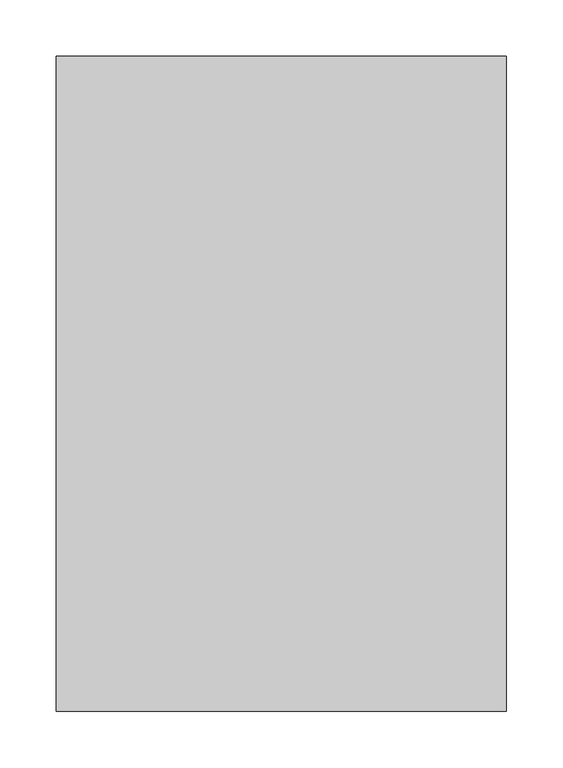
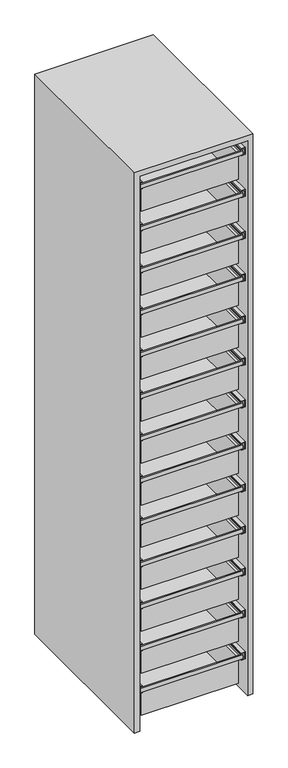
"""IFC4 building model written with IfcOpenShell, lengths in millimetres: proxy geometry, BIMHealth-Tall_Storage_Cupboard_with_Zone-LOD2A-v1 : BIMHealth-Tall_Storage_Cupboard_with_Zone-LOD2A-v1."""

import ifcopenshell
import ifcopenshell.guid

model = None  # the IFC model being written
_history = None  # IfcOwnerHistory: only IFC2X3 demands one
_inside = {}  # id of a spatial element -> (the spatial element, [elements in it])
_under = {}  # id of a project, library or spatial element -> (it, [spatial elements below it])
_declared = {}  # id of a project -> (the project, [libraries it declares])
_typed = {}  # id of a type object -> (the type object, [elements of that type])
_made_of = {}  # id of a material, layer set ... -> (it, [elements and type objects made of it])


def new_model(schema):
    """Start an empty IFC model of exactly this schema.

    Asked for "IFC4X3", IfcOpenShell would pick the latest addendum, in which some entities
    have other attributes; the version numbers below select the first issue.
    IFC2X3 requires an IfcOwnerHistory on every rooted entity: one is made here for all.
    """
    global model, _history
    if schema == "IFC4X3":
        model = ifcopenshell.file(schema_version=(4, 3, 0, 0))
    else:
        model = ifcopenshell.file(schema=schema)
    _inside.clear()
    _under.clear()
    _declared.clear()
    _typed.clear()
    _made_of.clear()
    _history = None
    if model.schema == "IFC2X3":
        org = make("IfcOrganization", Name="unknown")
        user = make(
            "IfcPersonAndOrganization",
            ThePerson=make("IfcPerson", FamilyName="unknown"),
            TheOrganization=org,
        )
        app = make(
            "IfcApplication",
            ApplicationDeveloper=org,
            Version="unknown",
            ApplicationFullName="unknown",
            ApplicationIdentifier="unknown",
        )
        _history = make(
            "IfcOwnerHistory",
            OwningUser=user,
            OwningApplication=app,
            ChangeAction="ADDED",
            CreationDate=0,
        )
    return model


def make(cls, **values):
    """One entity of the class cls with the attributes given. An attribute that is None is left unset."""
    return model.create_entity(
        cls, **{name: value for name, value in values.items() if value is not None}
    )


def rooted(cls, **values):
    """An entity with a GlobalId (a new one), such as an element, a storey or a relation."""
    return make(cls, GlobalId=ifcopenshell.guid.new(), OwnerHistory=_history, **values)


def si_unit(unit_type, name, prefix=None):
    """IfcSIUnit, for example si_unit("LENGTHUNIT", "METRE", prefix="MILLI")."""
    return make("IfcSIUnit", UnitType=unit_type, Prefix=prefix, Name=name)


def assignment(units):
    """IfcUnitAssignment: the units of a project."""
    return None if units is None else make("IfcUnitAssignment", Units=units)


def point(xyz):
    """IfcCartesianPoint."""
    return None if xyz is None else make("IfcCartesianPoint", Coordinates=xyz)


def direction(xyz):
    """IfcDirection."""
    return None if xyz is None else make("IfcDirection", DirectionRatios=xyz)


def frame(location, z_axis=None, x_axis=None):
    """IfcAxis2Placement3D, a coordinate frame: its origin and axes. An axis left out is left unset."""
    return make(
        "IfcAxis2Placement3D",
        Location=point(location),
        Axis=direction(z_axis),
        RefDirection=direction(x_axis),
    )


def origin():
    """The frame at (0, 0, 0) with its axes left unset."""
    return frame((0.0, 0.0, 0.0))


def place(relative_to, where):
    """IfcLocalPlacement: puts the frame where relative to a parent placement (None: the world)."""
    return make(
        "IfcLocalPlacement", PlacementRelTo=relative_to, RelativePlacement=where
    )


def context(
    kind, dimensions, precision=None, world=None, true_north=None, identifier=None
):
    """IfcGeometricRepresentationContext, for example the 3D "Model" context."""
    return make(
        "IfcGeometricRepresentationContext",
        ContextIdentifier=identifier,
        ContextType=kind,
        CoordinateSpaceDimension=dimensions,
        Precision=precision,
        WorldCoordinateSystem=world,
        TrueNorth=true_north,
    )


def project(units=None, contexts=None):
    """IfcProject with its units and contexts."""
    return rooted(
        "IfcProject",
        Name="project",
        RepresentationContexts=contexts,
        UnitsInContext=assignment(units),
    )


def spatial(cls, under=None, at=None, **own):
    """A site, building, storey or space (cls), placed at a placement, below another one or the project."""
    s = rooted(cls, ObjectPlacement=at, **own)
    if under is not None:
        _under.setdefault(under.id(), (under, []))[1].append(s)
    return s


def faces_of(points, faces, orient=None, outer=None):
    """IfcFace entities. A face is a list of loops; a loop is a list of indices into points, from 0.

    orient and outer hold one flag for each loop. By default every Orientation is true, the
    first loop of a face is its IfcFaceOuterBound and the others are IfcFaceBound.
    """
    made = []
    for i, loops in enumerate(faces):
        bounds = []
        for j, loop in enumerate(loops):
            is_outer = j == 0 if outer is None else outer[i][j]
            bounds.append(
                make(
                    "IfcFaceOuterBound" if is_outer else "IfcFaceBound",
                    Bound=make("IfcPolyLoop", Polygon=[points[k] for k in loop]),
                    Orientation=True if orient is None else orient[i][j],
                )
            )
        made.append(make("IfcFace", Bounds=bounds))
    return made


def faceted_brep(points, faces, orient=None, outer=None, voids=None):
    """IfcFacetedBrep: a solid bounded by flat faces; with voids (closed shells), ...WithVoids."""
    shared = [point(p) for p in points]
    hull = make("IfcClosedShell", CfsFaces=faces_of(shared, faces, orient, outer))
    if voids is None:
        return make("IfcFacetedBrep", Outer=hull)
    return make(
        "IfcFacetedBrepWithVoids",
        Outer=hull,
        Voids=[
            make(cls, CfsFaces=faces_of(shared, fs, o, b)) for cls, fs, o, b in voids
        ],
    )


def shape(context_of_items, identifier, shape_type, items):
    """IfcShapeRepresentation: the items that make up one representation, for example the "Body"."""
    return make(
        "IfcShapeRepresentation",
        ContextOfItems=context_of_items,
        RepresentationIdentifier=identifier,
        RepresentationType=shape_type,
        Items=items,
    )


def source(mapping_origin, context_of_items, identifier, shape_type, items):
    """IfcRepresentationMap: a shape defined once, which mapped items show again and again."""
    return make(
        "IfcRepresentationMap",
        MappingOrigin=mapping_origin,
        MappedRepresentation=shape(context_of_items, identifier, shape_type, items),
    )


def transform(
    local_origin,
    x_axis=None,
    y_axis=None,
    z_axis=None,
    scale=None,
    scale2=None,
    scale3=None,
    uniform=True,
):
    """IfcCartesianTransformationOperator3D, or its non-uniform kind. x_axis, y_axis, z_axis: its Axis1, 2, 3."""
    if uniform:
        return make(
            "IfcCartesianTransformationOperator3D",
            Axis1=direction(x_axis),
            Axis2=direction(y_axis),
            LocalOrigin=point(local_origin),
            Scale=scale,
            Axis3=direction(z_axis),
        )
    return make(
        "IfcCartesianTransformationOperator3DnonUniform",
        Axis1=direction(x_axis),
        Axis2=direction(y_axis),
        LocalOrigin=point(local_origin),
        Scale=scale,
        Axis3=direction(z_axis),
        Scale2=scale2,
        Scale3=scale3,
    )


def mapped(mapping_source, mapping_target):
    """IfcMappedItem: shows the shape of a source again, moved by a transform."""
    return make(
        "IfcMappedItem", MappingSource=mapping_source, MappingTarget=mapping_target
    )


def made_of(thing, what):
    """Note that an element or type object is made of a material, layer set ...; save() writes the relation."""
    if what is not None:
        _made_of.setdefault(what.id(), (what, []))[1].append(thing)
    return thing


def element(
    cls,
    number,
    at=None,
    inside=None,
    cuts=None,
    type_object=None,
    material=None,
    context=None,
    identifier="Body",
    shape_type=None,
    held_by="IfcProductDefinitionShape",
    body=None,
    shapes=None,
    **own,
):
    """One element of the class cls, such as IfcWall. Its Tag is "e" and its number.

    at: its placement. inside: the storey or other place that contains it. cuts: it is an
    opening in that element (IfcRelVoidsElement). A single representation is given by context,
    identifier, shape_type and body (its items); several are given by shapes. held_by: the class
    of the entity that holds the representations. save() writes the other relations.
    """
    e = rooted(cls, Tag="e%d" % number, ObjectPlacement=at, **own)
    if body is not None:
        shapes = [shape(context, identifier, shape_type, body)]
    if shapes is not None:
        e.Representation = make(held_by, Representations=shapes)
    if inside is not None:
        _inside.setdefault(inside.id(), (inside, []))[1].append(e)
    if cuts is not None:
        rooted(
            "IfcRelVoidsElement", RelatingBuildingElement=cuts, RelatedOpeningElement=e
        )
    if type_object is not None:
        _typed.setdefault(type_object.id(), (type_object, []))[1].append(e)
    return made_of(e, material)


def aggregate(whole, parts):
    """IfcRelAggregates: a whole, such as a stair, and the parts it consists of."""
    return rooted("IfcRelAggregates", RelatingObject=whole, RelatedObjects=parts)


def save(model, path):
    """Write the relations noted so far, then the file.

    IfcRelAggregates (storeys below a building ...), IfcRelContainedInSpatialStructure (elements
    in a storey), IfcRelDefinesByType, IfcRelAssociatesMaterial and IfcRelDeclares: one each for
    every whole, place, type object, material and project.
    """
    for whole, parts in _under.values():
        aggregate(whole, parts)
    for where, things in _inside.values():
        rooted(
            "IfcRelContainedInSpatialStructure",
            RelatedElements=things,
            RelatingStructure=where,
        )
    for kind, things in _typed.values():
        rooted("IfcRelDefinesByType", RelatedObjects=things, RelatingType=kind)
    for what, things in _made_of.values():
        rooted("IfcRelAssociatesMaterial", RelatedObjects=things, RelatingMaterial=what)
    for by, libraries in _declared.values():
        rooted("IfcRelDeclares", RelatingContext=by, RelatedDefinitions=libraries)
    model.write(path)


def generic_models_78f9e339(model_context):
    return source(origin(), model_context, "Body", "Brep", [
        faceted_brep([(26.5, -570.0, 1927.0), (26.5, -570.0, 1942.0), (26.5, -27.2910891, 1942.0), (26.5, -27.2910891, 1927.0), (36.5, -560.0, 1837.0), (36.5, -560.0, 1927.0), (36.5, -37.2910891, 1927.0), (36.5, -37.2910891, 1837.0), (38.5, -558.0, 1929.0), (38.5, -558.0, 1839.0), (38.5, -39.2910891, 1839.0), (38.5, -39.2910891, 1929.0), (28.5, -568.0, 1940.0), (28.5, -568.0, 1929.0), (28.5, -29.2910891, 1929.0), (28.5, -29.2910891, 1940.0), (31.5, -565.0, 1942.0), (31.5, -565.0, 1940.0), (31.5, -32.2910891, 1940.0), (31.5, -32.2910891, 1942.0), (373.5, -27.2910891, 1942.0), (373.5, -27.2910891, 1927.0), (363.5, -37.2910891, 1927.0), (363.5, -37.2910891, 1837.0), (361.5, -39.2910891, 1839.0), (361.5, -39.2910891, 1929.0), (371.5, -29.2910891, 1929.0), (371.5, -29.2910891, 1940.0), (368.5, -32.2910891, 1940.0), (368.5, -32.2910891, 1942.0), (373.5, -570.0, 1942.0), (373.5, -570.0, 1927.0), (363.5, -560.0, 1927.0), (363.5, -560.0, 1837.0), (361.5, -558.0, 1839.0), (361.5, -558.0, 1929.0), (371.5, -568.0, 1929.0), (371.5, -568.0, 1940.0), (368.5, -565.0, 1940.0), (368.5, -565.0, 1942.0)], [[[0, 1, 2, 3]], [[4, 5, 6, 7]], [[8, 9, 10, 11]], [[12, 13, 14, 15]], [[16, 17, 18, 19]], [[3, 2, 20, 21]], [[7, 6, 22, 23]], [[11, 10, 24, 25]], [[15, 14, 26, 27]], [[19, 18, 28, 29]], [[21, 20, 30, 31]], [[23, 22, 32, 33]], [[25, 24, 34, 35]], [[27, 26, 36, 37]], [[29, 28, 38, 39]], [[1, 0, 31, 30]], [[0, 3, 21, 31], [6, 5, 32, 22]], [[5, 4, 33, 32]], [[4, 7, 23, 33]], [[10, 9, 34, 24]], [[9, 8, 35, 34]], [[14, 13, 36, 26], [8, 11, 25, 35]], [[13, 12, 37, 36]], [[12, 15, 27, 37], [18, 17, 38, 28]], [[17, 16, 39, 38]], [[2, 1, 30, 20], [16, 19, 29, 39]]]),
        faceted_brep([(26.5, -570.0, 1777.0), (26.5, -570.0, 1792.0), (26.5, -27.2910891, 1792.0), (26.5, -27.2910891, 1777.0), (36.5, -560.0, 1687.0), (36.5, -560.0, 1777.0), (36.5, -37.2910891, 1777.0), (36.5, -37.2910891, 1687.0), (38.5, -558.0, 1779.0), (38.5, -558.0, 1689.0), (38.5, -39.2910891, 1689.0), (38.5, -39.2910891, 1779.0), (28.5, -568.0, 1790.0), (28.5, -568.0, 1779.0), (28.5, -29.2910891, 1779.0), (28.5, -29.2910891, 1790.0), (31.5, -565.0, 1792.0), (31.5, -565.0, 1790.0), (31.5, -32.2910891, 1790.0), (31.5, -32.2910891, 1792.0), (373.5, -27.2910891, 1792.0), (373.5, -27.2910891, 1777.0), (363.5, -37.2910891, 1777.0), (363.5, -37.2910891, 1687.0), (361.5, -39.2910891, 1689.0), (361.5, -39.2910891, 1779.0), (371.5, -29.2910891, 1779.0), (371.5, -29.2910891, 1790.0), (368.5, -32.2910891, 1790.0), (368.5, -32.2910891, 1792.0), (373.5, -570.0, 1792.0), (373.5, -570.0, 1777.0), (363.5, -560.0, 1777.0), (363.5, -560.0, 1687.0), (361.5, -558.0, 1689.0), (361.5, -558.0, 1779.0), (371.5, -568.0, 1779.0), (371.5, -568.0, 1790.0), (368.5, -565.0, 1790.0), (368.5, -565.0, 1792.0)], [[[0, 1, 2, 3]], [[4, 5, 6, 7]], [[8, 9, 10, 11]], [[12, 13, 14, 15]], [[16, 17, 18, 19]], [[3, 2, 20, 21]], [[7, 6, 22, 23]], [[11, 10, 24, 25]], [[15, 14, 26, 27]], [[19, 18, 28, 29]], [[21, 20, 30, 31]], [[23, 22, 32, 33]], [[25, 24, 34, 35]], [[27, 26, 36, 37]], [[29, 28, 38, 39]], [[1, 0, 31, 30]], [[0, 3, 21, 31], [6, 5, 32, 22]], [[5, 4, 33, 32]], [[4, 7, 23, 33]], [[10, 9, 34, 24]], [[9, 8, 35, 34]], [[14, 13, 36, 26], [8, 11, 25, 35]], [[13, 12, 37, 36]], [[12, 15, 27, 37], [18, 17, 38, 28]], [[17, 16, 39, 38]], [[2, 1, 30, 20], [16, 19, 29, 39]]]),
        faceted_brep([(26.5, -570.0, 1627.0), (26.5, -570.0, 1642.0), (26.5, -27.2910891, 1642.0), (26.5, -27.2910891, 1627.0), (36.5, -560.0, 1537.0), (36.5, -560.0, 1627.0), (36.5, -37.2910891, 1627.0), (36.5, -37.2910891, 1537.0), (38.5, -558.0, 1629.0), (38.5, -558.0, 1539.0), (38.5, -39.2910891, 1539.0), (38.5, -39.2910891, 1629.0), (28.5, -568.0, 1640.0), (28.5, -568.0, 1629.0), (28.5, -29.2910891, 1629.0), (28.5, -29.2910891, 1640.0), (31.5, -565.0, 1642.0), (31.5, -565.0, 1640.0), (31.5, -32.2910891, 1640.0), (31.5, -32.2910891, 1642.0), (373.5, -27.2910891, 1642.0), (373.5, -27.2910891, 1627.0), (363.5, -37.2910891, 1627.0), (363.5, -37.2910891, 1537.0), (361.5, -39.2910891, 1539.0), (361.5, -39.2910891, 1629.0), (371.5, -29.2910891, 1629.0), (371.5, -29.2910891, 1640.0), (368.5, -32.2910891, 1640.0), (368.5, -32.2910891, 1642.0), (373.5, -570.0, 1642.0), (373.5, -570.0, 1627.0), (363.5, -560.0, 1627.0), (363.5, -560.0, 1537.0), (361.5, -558.0, 1539.0), (361.5, -558.0, 1629.0), (371.5, -568.0, 1629.0), (371.5, -568.0, 1640.0), (368.5, -565.0, 1640.0), (368.5, -565.0, 1642.0)], [[[0, 1, 2, 3]], [[4, 5, 6, 7]], [[8, 9, 10, 11]], [[12, 13, 14, 15]], [[16, 17, 18, 19]], [[3, 2, 20, 21]], [[7, 6, 22, 23]], [[11, 10, 24, 25]], [[15, 14, 26, 27]], [[19, 18, 28, 29]], [[21, 20, 30, 31]], [[23, 22, 32, 33]], [[25, 24, 34, 35]], [[27, 26, 36, 37]], [[29, 28, 38, 39]], [[1, 0, 31, 30]], [[0, 3, 21, 31], [6, 5, 32, 22]], [[5, 4, 33, 32]], [[4, 7, 23, 33]], [[10, 9, 34, 24]], [[9, 8, 35, 34]], [[14, 13, 36, 26], [8, 11, 25, 35]], [[13, 12, 37, 36]], [[12, 15, 27, 37], [18, 17, 38, 28]], [[17, 16, 39, 38]], [[2, 1, 30, 20], [16, 19, 29, 39]]]),
        faceted_brep([(26.5, -570.0, 1477.0), (26.5, -570.0, 1492.0), (26.5, -27.2910891, 1492.0), (26.5, -27.2910891, 1477.0), (36.5, -560.0, 1387.0), (36.5, -560.0, 1477.0), (36.5, -37.2910891, 1477.0), (36.5, -37.2910891, 1387.0), (38.5, -558.0, 1479.0), (38.5, -558.0, 1389.0), (38.5, -39.2910891, 1389.0), (38.5, -39.2910891, 1479.0), (28.5, -568.0, 1490.0), (28.5, -568.0, 1479.0), (28.5, -29.2910891, 1479.0), (28.5, -29.2910891, 1490.0), (31.5, -565.0, 1492.0), (31.5, -565.0, 1490.0), (31.5, -32.2910891, 1490.0), (31.5, -32.2910891, 1492.0), (373.5, -27.2910891, 1492.0), (373.5, -27.2910891, 1477.0), (363.5, -37.2910891, 1477.0), (363.5, -37.2910891, 1387.0), (361.5, -39.2910891, 1389.0), (361.5, -39.2910891, 1479.0), (371.5, -29.2910891, 1479.0), (371.5, -29.2910891, 1490.0), (368.5, -32.2910891, 1490.0), (368.5, -32.2910891, 1492.0), (373.5, -570.0, 1492.0), (373.5, -570.0, 1477.0), (363.5, -560.0, 1477.0), (363.5, -560.0, 1387.0), (361.5, -558.0, 1389.0), (361.5, -558.0, 1479.0), (371.5, -568.0, 1479.0), (371.5, -568.0, 1490.0), (368.5, -565.0, 1490.0), (368.5, -565.0, 1492.0)], [[[0, 1, 2, 3]], [[4, 5, 6, 7]], [[8, 9, 10, 11]], [[12, 13, 14, 15]], [[16, 17, 18, 19]], [[3, 2, 20, 21]], [[7, 6, 22, 23]], [[11, 10, 24, 25]], [[15, 14, 26, 27]], [[19, 18, 28, 29]], [[21, 20, 30, 31]], [[23, 22, 32, 33]], [[25, 24, 34, 35]], [[27, 26, 36, 37]], [[29, 28, 38, 39]], [[1, 0, 31, 30]], [[0, 3, 21, 31], [6, 5, 32, 22]], [[5, 4, 33, 32]], [[4, 7, 23, 33]], [[10, 9, 34, 24]], [[9, 8, 35, 34]], [[14, 13, 36, 26], [8, 11, 25, 35]], [[13, 12, 37, 36]], [[12, 15, 27, 37], [18, 17, 38, 28]], [[17, 16, 39, 38]], [[2, 1, 30, 20], [16, 19, 29, 39]]]),
        faceted_brep([(26.5, -570.0, 1327.0), (26.5, -570.0, 1342.0), (26.5, -27.2910891, 1342.0), (26.5, -27.2910891, 1327.0), (36.5, -560.0, 1237.0), (36.5, -560.0, 1327.0), (36.5, -37.2910891, 1327.0), (36.5, -37.2910891, 1237.0), (38.5, -558.0, 1329.0), (38.5, -558.0, 1239.0), (38.5, -39.2910891, 1239.0), (38.5, -39.2910891, 1329.0), (28.5, -568.0, 1340.0), (28.5, -568.0, 1329.0), (28.5, -29.2910891, 1329.0), (28.5, -29.2910891, 1340.0), (31.5, -565.0, 1342.0), (31.5, -565.0, 1340.0), (31.5, -32.2910891, 1340.0), (31.5, -32.2910891, 1342.0), (373.5, -27.2910891, 1342.0), (373.5, -27.2910891, 1327.0), (363.5, -37.2910891, 1327.0), (363.5, -37.2910891, 1237.0), (361.5, -39.2910891, 1239.0), (361.5, -39.2910891, 1329.0), (371.5, -29.2910891, 1329.0), (371.5, -29.2910891, 1340.0), (368.5, -32.2910891, 1340.0), (368.5, -32.2910891, 1342.0), (373.5, -570.0, 1342.0), (373.5, -570.0, 1327.0), (363.5, -560.0, 1327.0), (363.5, -560.0, 1237.0), (361.5, -558.0, 1239.0), (361.5, -558.0, 1329.0), (371.5, -568.0, 1329.0), (371.5, -568.0, 1340.0), (368.5, -565.0, 1340.0), (368.5, -565.0, 1342.0)], [[[0, 1, 2, 3]], [[4, 5, 6, 7]], [[8, 9, 10, 11]], [[12, 13, 14, 15]], [[16, 17, 18, 19]], [[3, 2, 20, 21]], [[7, 6, 22, 23]], [[11, 10, 24, 25]], [[15, 14, 26, 27]], [[19, 18, 28, 29]], [[21, 20, 30, 31]], [[23, 22, 32, 33]], [[25, 24, 34, 35]], [[27, 26, 36, 37]], [[29, 28, 38, 39]], [[1, 0, 31, 30]], [[0, 3, 21, 31], [6, 5, 32, 22]], [[5, 4, 33, 32]], [[4, 7, 23, 33]], [[10, 9, 34, 24]], [[9, 8, 35, 34]], [[14, 13, 36, 26], [8, 11, 25, 35]], [[13, 12, 37, 36]], [[12, 15, 27, 37], [18, 17, 38, 28]], [[17, 16, 39, 38]], [[2, 1, 30, 20], [16, 19, 29, 39]]]),
        faceted_brep([(26.5, -570.0, 1177.0), (26.5, -570.0, 1192.0), (26.5, -27.2910891, 1192.0), (26.5, -27.2910891, 1177.0), (36.5, -560.0, 1087.0), (36.5, -560.0, 1177.0), (36.5, -37.2910891, 1177.0), (36.5, -37.2910891, 1087.0), (38.5, -558.0, 1179.0), (38.5, -558.0, 1089.0), (38.5, -39.2910891, 1089.0), (38.5, -39.2910891, 1179.0), (28.5, -568.0, 1190.0), (28.5, -568.0, 1179.0), (28.5, -29.2910891, 1179.0), (28.5, -29.2910891, 1190.0), (31.5, -565.0, 1192.0), (31.5, -565.0, 1190.0), (31.5, -32.2910891, 1190.0), (31.5, -32.2910891, 1192.0), (373.5, -27.2910891, 1192.0), (373.5, -27.2910891, 1177.0), (363.5, -37.2910891, 1177.0), (363.5, -37.2910891, 1087.0), (361.5, -39.2910891, 1089.0), (361.5, -39.2910891, 1179.0), (371.5, -29.2910891, 1179.0), (371.5, -29.2910891, 1190.0), (368.5, -32.2910891, 1190.0), (368.5, -32.2910891, 1192.0), (373.5, -570.0, 1192.0), (373.5, -570.0, 1177.0), (363.5, -560.0, 1177.0), (363.5, -560.0, 1087.0), (361.5, -558.0, 1089.0), (361.5, -558.0, 1179.0), (371.5, -568.0, 1179.0), (371.5, -568.0, 1190.0), (368.5, -565.0, 1190.0), (368.5, -565.0, 1192.0)], [[[0, 1, 2, 3]], [[4, 5, 6, 7]], [[8, 9, 10, 11]], [[12, 13, 14, 15]], [[16, 17, 18, 19]], [[3, 2, 20, 21]], [[7, 6, 22, 23]], [[11, 10, 24, 25]], [[15, 14, 26, 27]], [[19, 18, 28, 29]], [[21, 20, 30, 31]], [[23, 22, 32, 33]], [[25, 24, 34, 35]], [[27, 26, 36, 37]], [[29, 28, 38, 39]], [[1, 0, 31, 30]], [[0, 3, 21, 31], [6, 5, 32, 22]], [[5, 4, 33, 32]], [[4, 7, 23, 33]], [[10, 9, 34, 24]], [[9, 8, 35, 34]], [[14, 13, 36, 26], [8, 11, 25, 35]], [[13, 12, 37, 36]], [[12, 15, 27, 37], [18, 17, 38, 28]], [[17, 16, 39, 38]], [[2, 1, 30, 20], [16, 19, 29, 39]]]),
        faceted_brep([(26.5, -570.0, 1027.0), (26.5, -570.0, 1042.0), (26.5, -27.2910891, 1042.0), (26.5, -27.2910891, 1027.0), (36.5, -560.0, 937.0), (36.5, -560.0, 1027.0), (36.5, -37.2910891, 1027.0), (36.5, -37.2910891, 937.0), (38.5, -558.0, 1029.0), (38.5, -558.0, 939.0), (38.5, -39.2910891, 939.0), (38.5, -39.2910891, 1029.0), (28.5, -568.0, 1040.0), (28.5, -568.0, 1029.0), (28.5, -29.2910891, 1029.0), (28.5, -29.2910891, 1040.0), (31.5, -565.0, 1042.0), (31.5, -565.0, 1040.0), (31.5, -32.2910891, 1040.0), (31.5, -32.2910891, 1042.0), (373.5, -27.2910891, 1042.0), (373.5, -27.2910891, 1027.0), (363.5, -37.2910891, 1027.0), (363.5, -37.2910891, 937.0), (361.5, -39.2910891, 939.0), (361.5, -39.2910891, 1029.0), (371.5, -29.2910891, 1029.0), (371.5, -29.2910891, 1040.0), (368.5, -32.2910891, 1040.0), (368.5, -32.2910891, 1042.0), (373.5, -570.0, 1042.0), (373.5, -570.0, 1027.0), (363.5, -560.0, 1027.0), (363.5, -560.0, 937.0), (361.5, -558.0, 939.0), (361.5, -558.0, 1029.0), (371.5, -568.0, 1029.0), (371.5, -568.0, 1040.0), (368.5, -565.0, 1040.0), (368.5, -565.0, 1042.0)], [[[0, 1, 2, 3]], [[4, 5, 6, 7]], [[8, 9, 10, 11]], [[12, 13, 14, 15]], [[16, 17, 18, 19]], [[3, 2, 20, 21]], [[7, 6, 22, 23]], [[11, 10, 24, 25]], [[15, 14, 26, 27]], [[19, 18, 28, 29]], [[21, 20, 30, 31]], [[23, 22, 32, 33]], [[25, 24, 34, 35]], [[27, 26, 36, 37]], [[29, 28, 38, 39]], [[1, 0, 31, 30]], [[0, 3, 21, 31], [6, 5, 32, 22]], [[5, 4, 33, 32]], [[4, 7, 23, 33]], [[10, 9, 34, 24]], [[9, 8, 35, 34]], [[14, 13, 36, 26], [8, 11, 25, 35]], [[13, 12, 37, 36]], [[12, 15, 27, 37], [18, 17, 38, 28]], [[17, 16, 39, 38]], [[2, 1, 30, 20], [16, 19, 29, 39]]]),
        faceted_brep([(26.5, -570.0, 877.0), (26.5, -570.0, 892.0), (26.5, -27.2910891, 892.0), (26.5, -27.2910891, 877.0), (36.5, -560.0, 787.0), (36.5, -560.0, 877.0), (36.5, -37.2910891, 877.0), (36.5, -37.2910891, 787.0), (38.5, -558.0, 879.0), (38.5, -558.0, 789.0), (38.5, -39.2910891, 789.0), (38.5, -39.2910891, 879.0), (28.5, -568.0, 890.0), (28.5, -568.0, 879.0), (28.5, -29.2910891, 879.0), (28.5, -29.2910891, 890.0), (31.5, -565.0, 892.0), (31.5, -565.0, 890.0), (31.5, -32.2910891, 890.0), (31.5, -32.2910891, 892.0), (373.5, -27.2910891, 892.0), (373.5, -27.2910891, 877.0), (363.5, -37.2910891, 877.0), (363.5, -37.2910891, 787.0), (361.5, -39.2910891, 789.0), (361.5, -39.2910891, 879.0), (371.5, -29.2910891, 879.0), (371.5, -29.2910891, 890.0), (368.5, -32.2910891, 890.0), (368.5, -32.2910891, 892.0), (373.5, -570.0, 892.0), (373.5, -570.0, 877.0), (363.5, -560.0, 877.0), (363.5, -560.0, 787.0), (361.5, -558.0, 789.0), (361.5, -558.0, 879.0), (371.5, -568.0, 879.0), (371.5, -568.0, 890.0), (368.5, -565.0, 890.0), (368.5, -565.0, 892.0)], [[[0, 1, 2, 3]], [[4, 5, 6, 7]], [[8, 9, 10, 11]], [[12, 13, 14, 15]], [[16, 17, 18, 19]], [[3, 2, 20, 21]], [[7, 6, 22, 23]], [[11, 10, 24, 25]], [[15, 14, 26, 27]], [[19, 18, 28, 29]], [[21, 20, 30, 31]], [[23, 22, 32, 33]], [[25, 24, 34, 35]], [[27, 26, 36, 37]], [[29, 28, 38, 39]], [[1, 0, 31, 30]], [[0, 3, 21, 31], [6, 5, 32, 22]], [[5, 4, 33, 32]], [[4, 7, 23, 33]], [[10, 9, 34, 24]], [[9, 8, 35, 34]], [[14, 13, 36, 26], [8, 11, 25, 35]], [[13, 12, 37, 36]], [[12, 15, 27, 37], [18, 17, 38, 28]], [[17, 16, 39, 38]], [[2, 1, 30, 20], [16, 19, 29, 39]]]),
        faceted_brep([(26.5, -570.0, 727.0), (26.5, -570.0, 742.0), (26.5, -27.2910891, 742.0), (26.5, -27.2910891, 727.0), (36.5, -560.0, 637.0), (36.5, -560.0, 727.0), (36.5, -37.2910891, 727.0), (36.5, -37.2910891, 637.0), (38.5, -558.0, 729.0), (38.5, -558.0, 639.0), (38.5, -39.2910891, 639.0), (38.5, -39.2910891, 729.0), (28.5, -568.0, 740.0), (28.5, -568.0, 729.0), (28.5, -29.2910891, 729.0), (28.5, -29.2910891, 740.0), (31.5, -565.0, 742.0), (31.5, -565.0, 740.0), (31.5, -32.2910891, 740.0), (31.5, -32.2910891, 742.0), (373.5, -27.2910891, 742.0), (373.5, -27.2910891, 727.0), (363.5, -37.2910891, 727.0), (363.5, -37.2910891, 637.0), (361.5, -39.2910891, 639.0), (361.5, -39.2910891, 729.0), (371.5, -29.2910891, 729.0), (371.5, -29.2910891, 740.0), (368.5, -32.2910891, 740.0), (368.5, -32.2910891, 742.0), (373.5, -570.0, 742.0), (373.5, -570.0, 727.0), (363.5, -560.0, 727.0), (363.5, -560.0, 637.0), (361.5, -558.0, 639.0), (361.5, -558.0, 729.0), (371.5, -568.0, 729.0), (371.5, -568.0, 740.0), (368.5, -565.0, 740.0), (368.5, -565.0, 742.0)], [[[0, 1, 2, 3]], [[4, 5, 6, 7]], [[8, 9, 10, 11]], [[12, 13, 14, 15]], [[16, 17, 18, 19]], [[3, 2, 20, 21]], [[7, 6, 22, 23]], [[11, 10, 24, 25]], [[15, 14, 26, 27]], [[19, 18, 28, 29]], [[21, 20, 30, 31]], [[23, 22, 32, 33]], [[25, 24, 34, 35]], [[27, 26, 36, 37]], [[29, 28, 38, 39]], [[1, 0, 31, 30]], [[0, 3, 21, 31], [6, 5, 32, 22]], [[5, 4, 33, 32]], [[4, 7, 23, 33]], [[10, 9, 34, 24]], [[9, 8, 35, 34]], [[14, 13, 36, 26], [8, 11, 25, 35]], [[13, 12, 37, 36]], [[12, 15, 27, 37], [18, 17, 38, 28]], [[17, 16, 39, 38]], [[2, 1, 30, 20], [16, 19, 29, 39]]]),
        faceted_brep([(36.5, -560.0, 487.0), (36.5, -37.2910891, 487.0), (363.5, -37.2910891, 487.0), (363.5, -560.0, 487.0), (38.5, -39.2910891, 489.0), (38.5, -558.0, 489.0), (361.5, -558.0, 489.0), (361.5, -39.2910891, 489.0), (26.5, -570.0, 577.0), (26.5, -570.0, 592.0), (26.5, -27.2910891, 592.0), (26.5, -27.2910891, 577.0), (36.5, -560.0, 577.0), (36.5, -37.2910891, 577.0), (38.5, -558.0, 579.0), (38.5, -39.2910891, 579.0), (28.5, -568.0, 590.0), (28.5, -568.0, 579.0), (28.5, -29.2910891, 579.0), (28.5, -29.2910891, 590.0), (31.5, -565.0, 592.0), (31.5, -565.0, 590.0), (31.5, -32.2910891, 590.0), (31.5, -32.2910891, 592.0), (373.5, -27.2910891, 592.0), (373.5, -27.2910891, 577.0), (363.5, -37.2910891, 577.0), (361.5, -39.2910891, 579.0), (371.5, -29.2910891, 579.0), (371.5, -29.2910891, 590.0), (368.5, -32.2910891, 590.0), (368.5, -32.2910891, 592.0), (373.5, -570.0, 592.0), (373.5, -570.0, 577.0), (363.5, -560.0, 577.0), (361.5, -558.0, 579.0), (371.5, -568.0, 579.0), (371.5, -568.0, 590.0), (368.5, -565.0, 590.0), (368.5, -565.0, 592.0)], [[[0, 1, 2, 3]], [[4, 5, 6, 7]], [[8, 9, 10, 11]], [[0, 12, 13, 1]], [[14, 5, 4, 15]], [[16, 17, 18, 19]], [[20, 21, 22, 23]], [[11, 10, 24, 25]], [[1, 13, 26, 2]], [[15, 4, 7, 27]], [[19, 18, 28, 29]], [[23, 22, 30, 31]], [[25, 24, 32, 33]], [[2, 26, 34, 3]], [[27, 7, 6, 35]], [[29, 28, 36, 37]], [[31, 30, 38, 39]], [[9, 8, 33, 32]], [[8, 11, 25, 33], [13, 12, 34, 26]], [[12, 0, 3, 34]], [[5, 14, 35, 6]], [[18, 17, 36, 28], [14, 15, 27, 35]], [[17, 16, 37, 36]], [[16, 19, 29, 37], [22, 21, 38, 30]], [[21, 20, 39, 38]], [[10, 9, 32, 24], [20, 23, 31, 39]]]),
        faceted_brep([(26.5, -570.0, 277.0), (26.5, -570.0, 292.0), (26.5, -27.2910891, 292.0), (26.5, -27.2910891, 277.0), (36.5, -560.0, 187.0), (36.5, -560.0, 277.0), (36.5, -37.2910891, 277.0), (36.5, -37.2910891, 187.0), (38.5, -558.0, 279.0), (38.5, -558.0, 189.0), (38.5, -39.2910891, 189.0), (38.5, -39.2910891, 279.0), (28.5, -568.0, 290.0), (28.5, -568.0, 279.0), (28.5, -29.2910891, 279.0), (28.5, -29.2910891, 290.0), (31.5, -565.0, 292.0), (31.5, -565.0, 290.0), (31.5, -32.2910891, 290.0), (31.5, -32.2910891, 292.0), (373.5, -27.2910891, 292.0), (373.5, -27.2910891, 277.0), (363.5, -37.2910891, 277.0), (363.5, -37.2910891, 187.0), (361.5, -39.2910891, 189.0), (361.5, -39.2910891, 279.0), (371.5, -29.2910891, 279.0), (371.5, -29.2910891, 290.0), (368.5, -32.2910891, 290.0), (368.5, -32.2910891, 292.0), (373.5, -570.0, 292.0), (373.5, -570.0, 277.0), (363.5, -560.0, 277.0), (363.5, -560.0, 187.0), (361.5, -558.0, 189.0), (361.5, -558.0, 279.0), (371.5, -568.0, 279.0), (371.5, -568.0, 290.0), (368.5, -565.0, 290.0), (368.5, -565.0, 292.0)], [[[0, 1, 2, 3]], [[4, 5, 6, 7]], [[8, 9, 10, 11]], [[12, 13, 14, 15]], [[16, 17, 18, 19]], [[3, 2, 20, 21]], [[7, 6, 22, 23]], [[11, 10, 24, 25]], [[15, 14, 26, 27]], [[19, 18, 28, 29]], [[21, 20, 30, 31]], [[23, 22, 32, 33]], [[25, 24, 34, 35]], [[27, 26, 36, 37]], [[29, 28, 38, 39]], [[1, 0, 31, 30]], [[0, 3, 21, 31], [6, 5, 32, 22]], [[5, 4, 33, 32]], [[4, 7, 23, 33]], [[10, 9, 34, 24]], [[9, 8, 35, 34]], [[14, 13, 36, 26], [8, 11, 25, 35]], [[13, 12, 37, 36]], [[12, 15, 27, 37], [18, 17, 38, 28]], [[17, 16, 39, 38]], [[2, 1, 30, 20], [16, 19, 29, 39]]]),
        faceted_brep([(26.5, -570.0, 427.0), (26.5, -570.0, 442.0), (26.5, -27.2910891, 442.0), (26.5, -27.2910891, 427.0), (36.5, -560.0, 337.0), (36.5, -560.0, 427.0), (36.5, -37.2910891, 427.0), (36.5, -37.2910891, 337.0), (38.5, -558.0, 429.0), (38.5, -558.0, 339.0), (38.5, -39.2910891, 339.0), (38.5, -39.2910891, 429.0), (28.5, -568.0, 440.0), (28.5, -568.0, 429.0), (28.5, -29.2910891, 429.0), (28.5, -29.2910891, 440.0), (31.5, -565.0, 442.0), (31.5, -565.0, 440.0), (31.5, -32.2910891, 440.0), (31.5, -32.2910891, 442.0), (373.5, -27.2910891, 442.0), (373.5, -27.2910891, 427.0), (363.5, -37.2910891, 427.0), (363.5, -37.2910891, 337.0), (361.5, -39.2910891, 339.0), (361.5, -39.2910891, 429.0), (371.5, -29.2910891, 429.0), (371.5, -29.2910891, 440.0), (368.5, -32.2910891, 440.0), (368.5, -32.2910891, 442.0), (373.5, -570.0, 442.0), (373.5, -570.0, 427.0), (363.5, -560.0, 427.0), (363.5, -560.0, 337.0), (361.5, -558.0, 339.0), (361.5, -558.0, 429.0), (371.5, -568.0, 429.0), (371.5, -568.0, 440.0), (368.5, -565.0, 440.0), (368.5, -565.0, 442.0)], [[[0, 1, 2, 3]], [[4, 5, 6, 7]], [[8, 9, 10, 11]], [[12, 13, 14, 15]], [[16, 17, 18, 19]], [[3, 2, 20, 21]], [[7, 6, 22, 23]], [[11, 10, 24, 25]], [[15, 14, 26, 27]], [[19, 18, 28, 29]], [[21, 20, 30, 31]], [[23, 22, 32, 33]], [[25, 24, 34, 35]], [[27, 26, 36, 37]], [[29, 28, 38, 39]], [[1, 0, 31, 30]], [[0, 3, 21, 31], [6, 5, 32, 22]], [[5, 4, 33, 32]], [[4, 7, 23, 33]], [[10, 9, 34, 24]], [[9, 8, 35, 34]], [[14, 13, 36, 26], [8, 11, 25, 35]], [[13, 12, 37, 36]], [[12, 15, 27, 37], [18, 17, 38, 28]], [[17, 16, 39, 38]], [[2, 1, 30, 20], [16, 19, 29, 39]]]),
        faceted_brep([(18.0, -570.0, 1775.0), (33.0, -570.0, 1775.0), (33.0, -570.0, 1777.0), (20.0, -570.0, 1777.0), (20.0, -570.0, 1798.0), (33.0, -570.0, 1798.0), (33.0, -570.0, 1800.0), (18.0, -570.0, 1800.0), (18.0, -18.0, 1800.0), (18.0, -18.0, 1775.0), (382.0, -18.0, 1800.0), (382.0, -18.0, 1775.0), (382.0, -570.0, 1775.0), (382.0, -570.0, 1800.0), (367.0, -570.0, 1800.0), (367.0, -570.0, 1798.0), (380.0, -570.0, 1798.0), (380.0, -570.0, 1777.0), (367.0, -570.0, 1777.0), (367.0, -570.0, 1775.0), (367.0, -33.0, 1775.0), (33.0, -33.0, 1775.0), (33.0, -33.0, 1777.0), (367.0, -33.0, 1777.0), (380.0, -20.0, 1777.0), (20.0, -20.0, 1777.0), (20.0, -20.0, 1798.0), (380.0, -20.0, 1798.0), (367.0, -33.0, 1798.0), (33.0, -33.0, 1798.0), (33.0, -33.0, 1800.0), (367.0, -33.0, 1800.0)], [[[0, 1, 2, 3, 4, 5, 6, 7]], [[0, 7, 8, 9]], [[9, 8, 10, 11]], [[12, 13, 14, 15, 16, 17, 18, 19]], [[11, 10, 13, 12]], [[1, 0, 9, 11, 12, 19, 20, 21]], [[2, 1, 21, 22]], [[3, 2, 22, 23, 18, 17, 24, 25]], [[4, 3, 25, 26]], [[5, 4, 26, 27, 16, 15, 28, 29]], [[6, 5, 29, 30]], [[7, 6, 30, 31, 14, 13, 10, 8]], [[22, 21, 20, 23]], [[26, 25, 24, 27]], [[30, 29, 28, 31]], [[23, 20, 19, 18]], [[27, 24, 17, 16]], [[31, 28, 15, 14]]]),
        faceted_brep([(400.0, 0.0, 2000.0), (0.0, 0.0, 2000.0), (0.0, -582.0, 2000.0), (400.0, -582.0, 2000.0), (382.0, -582.0, 1982.0), (18.0, -582.0, 1982.0), (18.0, -18.0, 1982.0), (382.0, -18.0, 1982.0), (400.0, 0.0, 0.0), (0.0, 0.0, 0.0), (0.0, -582.0, 0.0), (18.0, -582.0, 0.0), (382.0, -582.0, 0.0), (400.0, -582.0, 0.0), (382.0, -18.0, 0.0), (18.0, -18.0, 0.0)], [[[0, 1, 2, 3]], [[4, 5, 6, 7]], [[1, 0, 8, 9]], [[2, 1, 9, 10]], [[3, 2, 10, 11, 5, 4, 12, 13]], [[8, 0, 3, 13]], [[9, 8, 13, 12, 14, 15, 11, 10]], [[11, 15, 6, 5]], [[15, 14, 7, 6]], [[14, 12, 4, 7]]]),
        faceted_brep([(18.0, -570.0, 1625.0), (33.0, -570.0, 1625.0), (33.0, -570.0, 1627.0), (20.0, -570.0, 1627.0), (20.0, -570.0, 1648.0), (33.0, -570.0, 1648.0), (33.0, -570.0, 1650.0), (18.0, -570.0, 1650.0), (18.0, -18.0, 1650.0), (18.0, -18.0, 1625.0), (382.0, -18.0, 1650.0), (382.0, -18.0, 1625.0), (382.0, -570.0, 1625.0), (382.0, -570.0, 1650.0), (367.0, -570.0, 1650.0), (367.0, -570.0, 1648.0), (380.0, -570.0, 1648.0), (380.0, -570.0, 1627.0), (367.0, -570.0, 1627.0), (367.0, -570.0, 1625.0), (367.0, -33.0, 1625.0), (33.0, -33.0, 1625.0), (33.0, -33.0, 1627.0), (367.0, -33.0, 1627.0), (380.0, -20.0, 1627.0), (20.0, -20.0, 1627.0), (20.0, -20.0, 1648.0), (380.0, -20.0, 1648.0), (367.0, -33.0, 1648.0), (33.0, -33.0, 1648.0), (33.0, -33.0, 1650.0), (367.0, -33.0, 1650.0)], [[[0, 1, 2, 3, 4, 5, 6, 7]], [[0, 7, 8, 9]], [[9, 8, 10, 11]], [[12, 13, 14, 15, 16, 17, 18, 19]], [[11, 10, 13, 12]], [[1, 0, 9, 11, 12, 19, 20, 21]], [[2, 1, 21, 22]], [[3, 2, 22, 23, 18, 17, 24, 25]], [[4, 3, 25, 26]], [[5, 4, 26, 27, 16, 15, 28, 29]], [[6, 5, 29, 30]], [[7, 6, 30, 31, 14, 13, 10, 8]], [[22, 21, 20, 23]], [[26, 25, 24, 27]], [[30, 29, 28, 31]], [[23, 20, 19, 18]], [[27, 24, 17, 16]], [[31, 28, 15, 14]]]),
        faceted_brep([(18.0, -570.0, 1475.0), (33.0, -570.0, 1475.0), (33.0, -570.0, 1477.0), (20.0, -570.0, 1477.0), (20.0, -570.0, 1498.0), (33.0, -570.0, 1498.0), (33.0, -570.0, 1500.0), (18.0, -570.0, 1500.0), (18.0, -18.0, 1500.0), (18.0, -18.0, 1475.0), (382.0, -18.0, 1500.0), (382.0, -18.0, 1475.0), (382.0, -570.0, 1475.0), (382.0, -570.0, 1500.0), (367.0, -570.0, 1500.0), (367.0, -570.0, 1498.0), (380.0, -570.0, 1498.0), (380.0, -570.0, 1477.0), (367.0, -570.0, 1477.0), (367.0, -570.0, 1475.0), (367.0, -33.0, 1475.0), (33.0, -33.0, 1475.0), (33.0, -33.0, 1477.0), (367.0, -33.0, 1477.0), (380.0, -20.0, 1477.0), (20.0, -20.0, 1477.0), (20.0, -20.0, 1498.0), (380.0, -20.0, 1498.0), (367.0, -33.0, 1498.0), (33.0, -33.0, 1498.0), (33.0, -33.0, 1500.0), (367.0, -33.0, 1500.0)], [[[0, 1, 2, 3, 4, 5, 6, 7]], [[0, 7, 8, 9]], [[9, 8, 10, 11]], [[12, 13, 14, 15, 16, 17, 18, 19]], [[11, 10, 13, 12]], [[1, 0, 9, 11, 12, 19, 20, 21]], [[2, 1, 21, 22]], [[3, 2, 22, 23, 18, 17, 24, 25]], [[4, 3, 25, 26]], [[5, 4, 26, 27, 16, 15, 28, 29]], [[6, 5, 29, 30]], [[7, 6, 30, 31, 14, 13, 10, 8]], [[22, 21, 20, 23]], [[26, 25, 24, 27]], [[30, 29, 28, 31]], [[23, 20, 19, 18]], [[27, 24, 17, 16]], [[31, 28, 15, 14]]]),
        faceted_brep([(18.0, -570.0, 1325.0), (33.0, -570.0, 1325.0), (33.0, -570.0, 1327.0), (20.0, -570.0, 1327.0), (20.0, -570.0, 1348.0), (33.0, -570.0, 1348.0), (33.0, -570.0, 1350.0), (18.0, -570.0, 1350.0), (18.0, -18.0, 1350.0), (18.0, -18.0, 1325.0), (382.0, -18.0, 1350.0), (382.0, -18.0, 1325.0), (382.0, -570.0, 1325.0), (382.0, -570.0, 1350.0), (367.0, -570.0, 1350.0), (367.0, -570.0, 1348.0), (380.0, -570.0, 1348.0), (380.0, -570.0, 1327.0), (367.0, -570.0, 1327.0), (367.0, -570.0, 1325.0), (367.0, -33.0, 1325.0), (33.0, -33.0, 1325.0), (33.0, -33.0, 1327.0), (367.0, -33.0, 1327.0), (380.0, -20.0, 1327.0), (20.0, -20.0, 1327.0), (20.0, -20.0, 1348.0), (380.0, -20.0, 1348.0), (367.0, -33.0, 1348.0), (33.0, -33.0, 1348.0), (33.0, -33.0, 1350.0), (367.0, -33.0, 1350.0)], [[[0, 1, 2, 3, 4, 5, 6, 7]], [[0, 7, 8, 9]], [[9, 8, 10, 11]], [[12, 13, 14, 15, 16, 17, 18, 19]], [[11, 10, 13, 12]], [[1, 0, 9, 11, 12, 19, 20, 21]], [[2, 1, 21, 22]], [[3, 2, 22, 23, 18, 17, 24, 25]], [[4, 3, 25, 26]], [[5, 4, 26, 27, 16, 15, 28, 29]], [[6, 5, 29, 30]], [[7, 6, 30, 31, 14, 13, 10, 8]], [[22, 21, 20, 23]], [[26, 25, 24, 27]], [[30, 29, 28, 31]], [[23, 20, 19, 18]], [[27, 24, 17, 16]], [[31, 28, 15, 14]]]),
        faceted_brep([(18.0, -570.0, 1175.0), (33.0, -570.0, 1175.0), (33.0, -570.0, 1177.0), (20.0, -570.0, 1177.0), (20.0, -570.0, 1198.0), (33.0, -570.0, 1198.0), (33.0, -570.0, 1200.0), (18.0, -570.0, 1200.0), (18.0, -18.0, 1200.0), (18.0, -18.0, 1175.0), (382.0, -18.0, 1200.0), (382.0, -18.0, 1175.0), (382.0, -570.0, 1175.0), (382.0, -570.0, 1200.0), (367.0, -570.0, 1200.0), (367.0, -570.0, 1198.0), (380.0, -570.0, 1198.0), (380.0, -570.0, 1177.0), (367.0, -570.0, 1177.0), (367.0, -570.0, 1175.0), (367.0, -33.0, 1175.0), (33.0, -33.0, 1175.0), (33.0, -33.0, 1177.0), (367.0, -33.0, 1177.0), (380.0, -20.0, 1177.0), (20.0, -20.0, 1177.0), (20.0, -20.0, 1198.0), (380.0, -20.0, 1198.0), (367.0, -33.0, 1198.0), (33.0, -33.0, 1198.0), (33.0, -33.0, 1200.0), (367.0, -33.0, 1200.0)], [[[0, 1, 2, 3, 4, 5, 6, 7]], [[0, 7, 8, 9]], [[9, 8, 10, 11]], [[12, 13, 14, 15, 16, 17, 18, 19]], [[11, 10, 13, 12]], [[1, 0, 9, 11, 12, 19, 20, 21]], [[2, 1, 21, 22]], [[3, 2, 22, 23, 18, 17, 24, 25]], [[4, 3, 25, 26]], [[5, 4, 26, 27, 16, 15, 28, 29]], [[6, 5, 29, 30]], [[7, 6, 30, 31, 14, 13, 10, 8]], [[22, 21, 20, 23]], [[26, 25, 24, 27]], [[30, 29, 28, 31]], [[23, 20, 19, 18]], [[27, 24, 17, 16]], [[31, 28, 15, 14]]]),
        faceted_brep([(18.0, -570.0, 1025.0), (33.0, -570.0, 1025.0), (33.0, -570.0, 1027.0), (20.0, -570.0, 1027.0), (20.0, -570.0, 1048.0), (33.0, -570.0, 1048.0), (33.0, -570.0, 1050.0), (18.0, -570.0, 1050.0), (18.0, -18.0, 1050.0), (18.0, -18.0, 1025.0), (382.0, -18.0, 1050.0), (382.0, -18.0, 1025.0), (382.0, -570.0, 1025.0), (382.0, -570.0, 1050.0), (367.0, -570.0, 1050.0), (367.0, -570.0, 1048.0), (380.0, -570.0, 1048.0), (380.0, -570.0, 1027.0), (367.0, -570.0, 1027.0), (367.0, -570.0, 1025.0), (367.0, -33.0, 1025.0), (33.0, -33.0, 1025.0), (33.0, -33.0, 1027.0), (367.0, -33.0, 1027.0), (380.0, -20.0, 1027.0), (20.0, -20.0, 1027.0), (20.0, -20.0, 1048.0), (380.0, -20.0, 1048.0), (367.0, -33.0, 1048.0), (33.0, -33.0, 1048.0), (33.0, -33.0, 1050.0), (367.0, -33.0, 1050.0)], [[[0, 1, 2, 3, 4, 5, 6, 7]], [[0, 7, 8, 9]], [[9, 8, 10, 11]], [[12, 13, 14, 15, 16, 17, 18, 19]], [[11, 10, 13, 12]], [[1, 0, 9, 11, 12, 19, 20, 21]], [[2, 1, 21, 22]], [[3, 2, 22, 23, 18, 17, 24, 25]], [[4, 3, 25, 26]], [[5, 4, 26, 27, 16, 15, 28, 29]], [[6, 5, 29, 30]], [[7, 6, 30, 31, 14, 13, 10, 8]], [[22, 21, 20, 23]], [[26, 25, 24, 27]], [[30, 29, 28, 31]], [[23, 20, 19, 18]], [[27, 24, 17, 16]], [[31, 28, 15, 14]]]),
        faceted_brep([(18.0, -570.0, 875.0), (33.0, -570.0, 875.0), (33.0, -570.0, 877.0), (20.0, -570.0, 877.0), (20.0, -570.0, 898.0), (33.0, -570.0, 898.0), (33.0, -570.0, 900.0), (18.0, -570.0, 900.0), (18.0, -18.0, 900.0), (18.0, -18.0, 875.0), (382.0, -18.0, 900.0), (382.0, -18.0, 875.0), (382.0, -570.0, 875.0), (382.0, -570.0, 900.0), (367.0, -570.0, 900.0), (367.0, -570.0, 898.0), (380.0, -570.0, 898.0), (380.0, -570.0, 877.0), (367.0, -570.0, 877.0), (367.0, -570.0, 875.0), (367.0, -33.0, 875.0), (33.0, -33.0, 875.0), (33.0, -33.0, 877.0), (367.0, -33.0, 877.0), (380.0, -20.0, 877.0), (20.0, -20.0, 877.0), (20.0, -20.0, 898.0), (380.0, -20.0, 898.0), (367.0, -33.0, 898.0), (33.0, -33.0, 898.0), (33.0, -33.0, 900.0), (367.0, -33.0, 900.0)], [[[0, 1, 2, 3, 4, 5, 6, 7]], [[0, 7, 8, 9]], [[9, 8, 10, 11]], [[12, 13, 14, 15, 16, 17, 18, 19]], [[11, 10, 13, 12]], [[1, 0, 9, 11, 12, 19, 20, 21]], [[2, 1, 21, 22]], [[3, 2, 22, 23, 18, 17, 24, 25]], [[4, 3, 25, 26]], [[5, 4, 26, 27, 16, 15, 28, 29]], [[6, 5, 29, 30]], [[7, 6, 30, 31, 14, 13, 10, 8]], [[22, 21, 20, 23]], [[26, 25, 24, 27]], [[30, 29, 28, 31]], [[23, 20, 19, 18]], [[27, 24, 17, 16]], [[31, 28, 15, 14]]]),
        faceted_brep([(18.0, -570.0, 725.0), (33.0, -570.0, 725.0), (33.0, -570.0, 727.0), (20.0, -570.0, 727.0), (20.0, -570.0, 748.0), (33.0, -570.0, 748.0), (33.0, -570.0, 750.0), (18.0, -570.0, 750.0), (18.0, -18.0, 750.0), (18.0, -18.0, 725.0), (382.0, -18.0, 750.0), (382.0, -18.0, 725.0), (382.0, -570.0, 725.0), (382.0, -570.0, 750.0), (367.0, -570.0, 750.0), (367.0, -570.0, 748.0), (380.0, -570.0, 748.0), (380.0, -570.0, 727.0), (367.0, -570.0, 727.0), (367.0, -570.0, 725.0), (367.0, -33.0, 725.0), (33.0, -33.0, 725.0), (33.0, -33.0, 727.0), (367.0, -33.0, 727.0), (380.0, -20.0, 727.0), (20.0, -20.0, 727.0), (20.0, -20.0, 748.0), (380.0, -20.0, 748.0), (367.0, -33.0, 748.0), (33.0, -33.0, 748.0), (33.0, -33.0, 750.0), (367.0, -33.0, 750.0)], [[[0, 1, 2, 3, 4, 5, 6, 7]], [[0, 7, 8, 9]], [[9, 8, 10, 11]], [[12, 13, 14, 15, 16, 17, 18, 19]], [[11, 10, 13, 12]], [[1, 0, 9, 11, 12, 19, 20, 21]], [[2, 1, 21, 22]], [[3, 2, 22, 23, 18, 17, 24, 25]], [[4, 3, 25, 26]], [[5, 4, 26, 27, 16, 15, 28, 29]], [[6, 5, 29, 30]], [[7, 6, 30, 31, 14, 13, 10, 8]], [[22, 21, 20, 23]], [[26, 25, 24, 27]], [[30, 29, 28, 31]], [[23, 20, 19, 18]], [[27, 24, 17, 16]], [[31, 28, 15, 14]]]),
        faceted_brep([(18.0, -570.0, 575.0), (33.0, -570.0, 575.0), (33.0, -570.0, 577.0), (20.0, -570.0, 577.0), (20.0, -570.0, 598.0), (33.0, -570.0, 598.0), (33.0, -570.0, 600.0), (18.0, -570.0, 600.0), (18.0, -18.0, 600.0), (18.0, -18.0, 575.0), (382.0, -18.0, 600.0), (382.0, -18.0, 575.0), (382.0, -570.0, 575.0), (382.0, -570.0, 600.0), (367.0, -570.0, 600.0), (367.0, -570.0, 598.0), (380.0, -570.0, 598.0), (380.0, -570.0, 577.0), (367.0, -570.0, 577.0), (367.0, -570.0, 575.0), (367.0, -33.0, 575.0), (33.0, -33.0, 575.0), (33.0, -33.0, 577.0), (367.0, -33.0, 577.0), (380.0, -20.0, 577.0), (20.0, -20.0, 577.0), (20.0, -20.0, 598.0), (380.0, -20.0, 598.0), (367.0, -33.0, 598.0), (33.0, -33.0, 598.0), (33.0, -33.0, 600.0), (367.0, -33.0, 600.0)], [[[0, 1, 2, 3, 4, 5, 6, 7]], [[0, 7, 8, 9]], [[9, 8, 10, 11]], [[12, 13, 14, 15, 16, 17, 18, 19]], [[11, 10, 13, 12]], [[1, 0, 9, 11, 12, 19, 20, 21]], [[2, 1, 21, 22]], [[3, 2, 22, 23, 18, 17, 24, 25]], [[4, 3, 25, 26]], [[5, 4, 26, 27, 16, 15, 28, 29]], [[6, 5, 29, 30]], [[7, 6, 30, 31, 14, 13, 10, 8]], [[22, 21, 20, 23]], [[26, 25, 24, 27]], [[30, 29, 28, 31]], [[23, 20, 19, 18]], [[27, 24, 17, 16]], [[31, 28, 15, 14]]]),
        faceted_brep([(18.0, -570.0, 425.0), (33.0, -570.0, 425.0), (33.0, -570.0, 427.0), (20.0, -570.0, 427.0), (20.0, -570.0, 448.0), (33.0, -570.0, 448.0), (33.0, -570.0, 450.0), (18.0, -570.0, 450.0), (18.0, -18.0, 450.0), (18.0, -18.0, 425.0), (382.0, -18.0, 450.0), (382.0, -18.0, 425.0), (382.0, -570.0, 425.0), (382.0, -570.0, 450.0), (367.0, -570.0, 450.0), (367.0, -570.0, 448.0), (380.0, -570.0, 448.0), (380.0, -570.0, 427.0), (367.0, -570.0, 427.0), (367.0, -570.0, 425.0), (367.0, -33.0, 425.0), (33.0, -33.0, 425.0), (33.0, -33.0, 427.0), (367.0, -33.0, 427.0), (380.0, -20.0, 427.0), (20.0, -20.0, 427.0), (20.0, -20.0, 448.0), (380.0, -20.0, 448.0), (367.0, -33.0, 448.0), (33.0, -33.0, 448.0), (33.0, -33.0, 450.0), (367.0, -33.0, 450.0)], [[[0, 1, 2, 3, 4, 5, 6, 7]], [[0, 7, 8, 9]], [[9, 8, 10, 11]], [[12, 13, 14, 15, 16, 17, 18, 19]], [[11, 10, 13, 12]], [[1, 0, 9, 11, 12, 19, 20, 21]], [[2, 1, 21, 22]], [[3, 2, 22, 23, 18, 17, 24, 25]], [[4, 3, 25, 26]], [[5, 4, 26, 27, 16, 15, 28, 29]], [[6, 5, 29, 30]], [[7, 6, 30, 31, 14, 13, 10, 8]], [[22, 21, 20, 23]], [[26, 25, 24, 27]], [[30, 29, 28, 31]], [[23, 20, 19, 18]], [[27, 24, 17, 16]], [[31, 28, 15, 14]]]),
        faceted_brep([(18.0, -570.0, 275.0), (33.0, -570.0, 275.0), (33.0, -570.0, 277.0), (20.0, -570.0, 277.0), (20.0, -570.0, 298.0), (33.0, -570.0, 298.0), (33.0, -570.0, 300.0), (18.0, -570.0, 300.0), (18.0, -18.0, 300.0), (18.0, -18.0, 275.0), (382.0, -18.0, 300.0), (382.0, -18.0, 275.0), (382.0, -570.0, 275.0), (382.0, -570.0, 300.0), (367.0, -570.0, 300.0), (367.0, -570.0, 298.0), (380.0, -570.0, 298.0), (380.0, -570.0, 277.0), (367.0, -570.0, 277.0), (367.0, -570.0, 275.0), (367.0, -33.0, 275.0), (33.0, -33.0, 275.0), (33.0, -33.0, 277.0), (367.0, -33.0, 277.0), (380.0, -20.0, 277.0), (20.0, -20.0, 277.0), (20.0, -20.0, 298.0), (380.0, -20.0, 298.0), (367.0, -33.0, 298.0), (33.0, -33.0, 298.0), (33.0, -33.0, 300.0), (367.0, -33.0, 300.0)], [[[0, 1, 2, 3, 4, 5, 6, 7]], [[0, 7, 8, 9]], [[9, 8, 10, 11]], [[12, 13, 14, 15, 16, 17, 18, 19]], [[11, 10, 13, 12]], [[1, 0, 9, 11, 12, 19, 20, 21]], [[2, 1, 21, 22]], [[3, 2, 22, 23, 18, 17, 24, 25]], [[4, 3, 25, 26]], [[5, 4, 26, 27, 16, 15, 28, 29]], [[6, 5, 29, 30]], [[7, 6, 30, 31, 14, 13, 10, 8]], [[22, 21, 20, 23]], [[26, 25, 24, 27]], [[30, 29, 28, 31]], [[23, 20, 19, 18]], [[27, 24, 17, 16]], [[31, 28, 15, 14]]]),
        faceted_brep([(36.5, -560.0, 37.0), (36.5, -37.2910891, 37.0), (363.5, -37.2910891, 37.0), (363.5, -560.0, 37.0), (38.5, -39.2910891, 39.0), (38.5, -558.0, 39.0), (361.5, -558.0, 39.0), (361.5, -39.2910891, 39.0), (26.5, -570.0, 127.0), (26.5, -570.0, 142.0), (26.5, -27.2910891, 142.0), (26.5, -27.2910891, 127.0), (36.5, -560.0, 127.0), (36.5, -37.2910891, 127.0), (38.5, -558.0, 129.0), (38.5, -39.2910891, 129.0), (28.5, -568.0, 140.0), (28.5, -568.0, 129.0), (28.5, -29.2910891, 129.0), (28.5, -29.2910891, 140.0), (31.5, -565.0, 142.0), (31.5, -565.0, 140.0), (31.5, -32.2910891, 140.0), (31.5, -32.2910891, 142.0), (373.5, -27.2910891, 142.0), (373.5, -27.2910891, 127.0), (363.5, -37.2910891, 127.0), (361.5, -39.2910891, 129.0), (371.5, -29.2910891, 129.0), (371.5, -29.2910891, 140.0), (368.5, -32.2910891, 140.0), (368.5, -32.2910891, 142.0), (373.5, -570.0, 142.0), (373.5, -570.0, 127.0), (363.5, -560.0, 127.0), (361.5, -558.0, 129.0), (371.5, -568.0, 129.0), (371.5, -568.0, 140.0), (368.5, -565.0, 140.0), (368.5, -565.0, 142.0)], [[[0, 1, 2, 3]], [[4, 5, 6, 7]], [[8, 9, 10, 11]], [[0, 12, 13, 1]], [[14, 5, 4, 15]], [[16, 17, 18, 19]], [[20, 21, 22, 23]], [[11, 10, 24, 25]], [[1, 13, 26, 2]], [[15, 4, 7, 27]], [[19, 18, 28, 29]], [[23, 22, 30, 31]], [[25, 24, 32, 33]], [[2, 26, 34, 3]], [[27, 7, 6, 35]], [[29, 28, 36, 37]], [[31, 30, 38, 39]], [[9, 8, 33, 32]], [[8, 11, 25, 33], [13, 12, 34, 26]], [[12, 0, 3, 34]], [[5, 14, 35, 6]], [[18, 17, 36, 28], [14, 15, 27, 35]], [[17, 16, 37, 36]], [[16, 19, 29, 37], [22, 21, 38, 30]], [[21, 20, 39, 38]], [[10, 9, 32, 24], [20, 23, 31, 39]]]),
        faceted_brep([(18.0, -570.0, 125.0), (33.0, -570.0, 125.0), (33.0, -570.0, 127.0), (20.0, -570.0, 127.0), (20.0, -570.0, 148.0), (33.0, -570.0, 148.0), (33.0, -570.0, 150.0), (18.0, -570.0, 150.0), (18.0, -18.0, 150.0), (18.0, -18.0, 125.0), (382.0, -18.0, 150.0), (382.0, -18.0, 125.0), (382.0, -570.0, 125.0), (382.0, -570.0, 150.0), (367.0, -570.0, 150.0), (367.0, -570.0, 148.0), (380.0, -570.0, 148.0), (380.0, -570.0, 127.0), (367.0, -570.0, 127.0), (367.0, -570.0, 125.0), (367.0, -33.0, 125.0), (33.0, -33.0, 125.0), (33.0, -33.0, 127.0), (367.0, -33.0, 127.0), (380.0, -20.0, 127.0), (20.0, -20.0, 127.0), (20.0, -20.0, 148.0), (380.0, -20.0, 148.0), (367.0, -33.0, 148.0), (33.0, -33.0, 148.0), (33.0, -33.0, 150.0), (367.0, -33.0, 150.0)], [[[0, 1, 2, 3, 4, 5, 6, 7]], [[0, 7, 8, 9]], [[9, 8, 10, 11]], [[12, 13, 14, 15, 16, 17, 18, 19]], [[11, 10, 13, 12]], [[1, 0, 9, 11, 12, 19, 20, 21]], [[2, 1, 21, 22]], [[3, 2, 22, 23, 18, 17, 24, 25]], [[4, 3, 25, 26]], [[5, 4, 26, 27, 16, 15, 28, 29]], [[6, 5, 29, 30]], [[7, 6, 30, 31, 14, 13, 10, 8]], [[22, 21, 20, 23]], [[26, 25, 24, 27]], [[30, 29, 28, 31]], [[23, 20, 19, 18]], [[27, 24, 17, 16]], [[31, 28, 15, 14]]]),
        faceted_brep([(18.0, -570.0, 1925.0), (33.0, -570.0, 1925.0), (33.0, -570.0, 1927.0), (20.0, -570.0, 1927.0), (20.0, -570.0, 1948.0), (33.0, -570.0, 1948.0), (33.0, -570.0, 1950.0), (18.0, -570.0, 1950.0), (18.0, -18.0, 1950.0), (18.0, -18.0, 1925.0), (382.0, -18.0, 1950.0), (382.0, -18.0, 1925.0), (382.0, -570.0, 1925.0), (382.0, -570.0, 1950.0), (367.0, -570.0, 1950.0), (367.0, -570.0, 1948.0), (380.0, -570.0, 1948.0), (380.0, -570.0, 1927.0), (367.0, -570.0, 1927.0), (367.0, -570.0, 1925.0), (367.0, -33.0, 1925.0), (33.0, -33.0, 1925.0), (33.0, -33.0, 1927.0), (367.0, -33.0, 1927.0), (380.0, -20.0, 1927.0), (20.0, -20.0, 1927.0), (20.0, -20.0, 1948.0), (380.0, -20.0, 1948.0), (367.0, -33.0, 1948.0), (33.0, -33.0, 1948.0), (33.0, -33.0, 1950.0), (367.0, -33.0, 1950.0)], [[[0, 1, 2, 3, 4, 5, 6, 7]], [[0, 7, 8, 9]], [[9, 8, 10, 11]], [[12, 13, 14, 15, 16, 17, 18, 19]], [[11, 10, 13, 12]], [[1, 0, 9, 11, 12, 19, 20, 21]], [[2, 1, 21, 22]], [[3, 2, 22, 23, 18, 17, 24, 25]], [[4, 3, 25, 26]], [[5, 4, 26, 27, 16, 15, 28, 29]], [[6, 5, 29, 30]], [[7, 6, 30, 31, 14, 13, 10, 8]], [[22, 21, 20, 23]], [[26, 25, 24, 27]], [[30, 29, 28, 31]], [[23, 20, 19, 18]], [[27, 24, 17, 16]], [[31, 28, 15, 14]]]),
    ])


if __name__ == "__main__":
    model = new_model("IFC4")
    model_context = context("Model", 3, world=origin())
    ifc_project = project(units=[si_unit("LENGTHUNIT", "METRE", prefix="MILLI")], contexts=[model_context])
    site = spatial("IfcSite", under=ifc_project)
    building = spatial("IfcBuilding", under=site)
    placement = place(None, origin())
    generic_models_shape = generic_models_78f9e339(model_context)
    element("IfcBuildingElementProxy", 1, Name="BIMHealth-Tall_Storage_Cupboard_with_Zone-LOD2A-v1 : BIMHealth-Tall_Storage_Cupboard_with_Zone-LOD2A-v1", ObjectType="BIMHealth-Tall_Storage_Cupboard_with_Zone-LOD2A-v1 : BIMHealth-Tall_Storage_Cupboard_with_Zone-LOD2A-v1", at=placement, inside=building, context=model_context, shape_type="MappedRepresentation", body=[
        mapped(generic_models_shape, transform((0.0, 0.0, 0.0), x_axis=(1.0, 0.0, 0.0), y_axis=(0.0, 1.0, 0.0), z_axis=(0.0, 0.0, 1.0))),
    ])
    save(model, "model.ifc")
